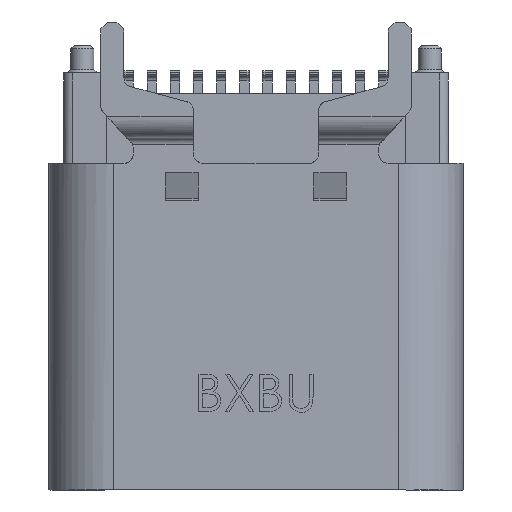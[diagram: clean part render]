
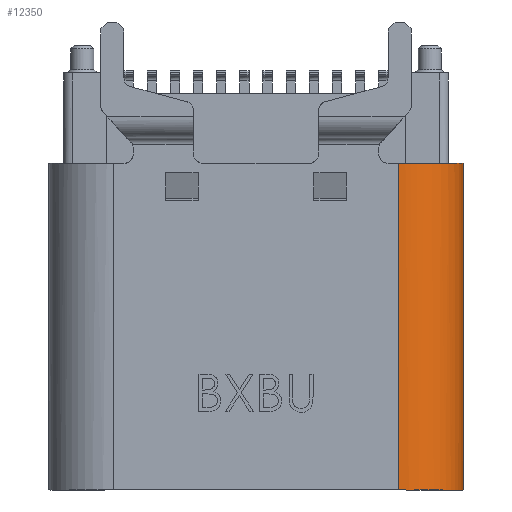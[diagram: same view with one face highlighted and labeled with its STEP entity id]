
A CAD part, front view. The second image highlights one B-rep face of the part: STEP entity #12350.
In plain terms, the highlighted cylindrical face has radius 1.4 mm (diameter 2.8 mm), a partial arc.
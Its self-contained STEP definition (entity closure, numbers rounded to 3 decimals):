
#734 = FACE_OUTER_BOUND ( 'NONE', #31170, .T. ) ;
#787 = VERTEX_POINT ( 'NONE', #1582 ) ;
#1535 = CARTESIAN_POINT ( 'NONE',  ( 3.225, -0.816, 0.093 ) ) ;
#1582 = CARTESIAN_POINT ( 'NONE',  ( 4.47, 0.575, -6.957 ) ) ;
#1964 = CARTESIAN_POINT ( 'NONE',  ( 4.47, 0.575, 0.093 ) ) ;
#2052 = B_SPLINE_CURVE_WITH_KNOTS ( 'NONE', 3,
 ( #10686, #8295, #7815, #30344, #18105, #29713, #15053, #2804, #22625, #22778 ),
 .UNSPECIFIED., .F., .F.,
 ( 4, 2, 2, 2, 4 ),
 ( 0., 0.25, 0.5, 0.75, 1. ),
 .UNSPECIFIED. ) ;
#2292 = CARTESIAN_POINT ( 'NONE',  ( 4.47, 0.575, 0.093 ) ) ;
#2730 = EDGE_CURVE ( 'NONE', #10450, #787, #24397, .T. ) ;
#2804 = CARTESIAN_POINT ( 'NONE',  ( 4.434, 0.209, -6.957 ) ) ;
#2941 = CARTESIAN_POINT ( 'NONE',  ( 4.15, -0.316, 0.093 ) ) ;
#3513 = ORIENTED_EDGE ( 'NONE', *, *, #4043, .T. ) ;
#3514 = CARTESIAN_POINT ( 'NONE',  ( 3.07, -0.825, 0.093 ) ) ;
#4043 = EDGE_CURVE ( 'NONE', #12006, #18644, #22339, .T. ) ;
#5031 = CARTESIAN_POINT ( 'NONE',  ( 4.47, 0.575, -6.957 ) ) ;
#6058 = CARTESIAN_POINT ( 'NONE',  ( 3.07, -0.825, 0.093 ) ) ;
#7815 = CARTESIAN_POINT ( 'NONE',  ( 3.436, -0.789, -6.957 ) ) ;
#8295 = CARTESIAN_POINT ( 'NONE',  ( 3.253, -0.825, -6.957 ) ) ;
#8397 = CARTESIAN_POINT ( 'NONE',  ( 4.15, -0.316, 0.093 ) ) ;
#8724 = CARTESIAN_POINT ( 'NONE',  ( 4.253, -0.191, 0.093 ) ) ;
#9410 = CARTESIAN_POINT ( 'NONE',  ( 4.47, 0.575, -4.607 ) ) ;
#9481 = AXIS2_PLACEMENT_3D ( 'NONE', #10561, #20395, #30221 ) ;
#9510 = B_SPLINE_CURVE_WITH_KNOTS ( 'NONE', 3,
 ( #8397, #8724, #13202, #28019, #28344, #25598 ),
 .UNSPECIFIED., .F., .F.,
 ( 4, 2, 4 ),
 ( 0., 0.5, 1. ),
 .UNSPECIFIED. ) ;
#9645 = EDGE_CURVE ( 'NONE', #19844, #10450, #9510, .T. ) ;
#10450 = VERTEX_POINT ( 'NONE', #1964 ) ;
#10561 = CARTESIAN_POINT ( 'NONE',  ( 3.07, 0.575, -7.607 ) ) ;
#10686 = CARTESIAN_POINT ( 'NONE',  ( 3.07, -0.825, -6.957 ) ) ;
#10917 = CARTESIAN_POINT ( 'NONE',  ( 4.15, -0.316, 0.093 ) ) ;
#12006 = VERTEX_POINT ( 'NONE', #3514 ) ;
#12350 = ADVANCED_FACE ( 'NONE', ( #734 ), #16210, .T. ) ;
#13202 = CARTESIAN_POINT ( 'NONE',  ( 4.333, -0.051, 0.093 ) ) ;
#15053 = CARTESIAN_POINT ( 'NONE',  ( 4.293, -0.13, -6.957 ) ) ;
#15550 = CARTESIAN_POINT ( 'NONE',  ( 3.173, -0.822, 0.093 ) ) ;
#16085 = CARTESIAN_POINT ( 'NONE',  ( 3.225, -0.816, 0.093 ) ) ;
#16210 = CYLINDRICAL_SURFACE ( 'NONE', #9481, 1.4 ) ;
#16517 = ORIENTED_EDGE ( 'NONE', *, *, #20983, .F. ) ;
#17006 = EDGE_CURVE ( 'NONE', #18644, #787, #2052, .T. ) ;
#17531 = ORIENTED_EDGE ( 'NONE', *, *, #21678, .T. ) ;
#18105 = CARTESIAN_POINT ( 'NONE',  ( 3.93, -0.545, -6.957 ) ) ;
#18413 = CARTESIAN_POINT ( 'NONE',  ( 3.07, -0.825, -2.257 ) ) ;
#18644 = VERTEX_POINT ( 'NONE', #22066 ) ;
#19692 = CARTESIAN_POINT ( 'NONE',  ( 4.47, 0.575, -2.257 ) ) ;
#19844 = VERTEX_POINT ( 'NONE', #2941 ) ;
#20395 = DIRECTION ( 'NONE',  ( 0., 0., -1. ) ) ;
#20922 = CARTESIAN_POINT ( 'NONE',  ( 3.894, -0.571, 0.093 ) ) ;
#20983 = EDGE_CURVE ( 'NONE', #12006, #30029, #26624, .T. ) ;
#21678 = EDGE_CURVE ( 'NONE', #19844, #30029, #28100, .T. ) ;
#21727 = ORIENTED_EDGE ( 'NONE', *, *, #17006, .T. ) ;
#22066 = CARTESIAN_POINT ( 'NONE',  ( 3.07, -0.825, -6.957 ) ) ;
#22339 = B_SPLINE_CURVE_WITH_KNOTS ( 'NONE', 3,
 ( #31114, #18413, #23542, #31268 ),
 .UNSPECIFIED., .F., .F.,
 ( 4, 4 ),
 ( 0., 1. ),
 .UNSPECIFIED. ) ;
#22625 = CARTESIAN_POINT ( 'NONE',  ( 4.47, 0.392, -6.957 ) ) ;
#22778 = CARTESIAN_POINT ( 'NONE',  ( 4.47, 0.575, -6.957 ) ) ;
#22916 = CARTESIAN_POINT ( 'NONE',  ( 3.225, -0.816, 0.093 ) ) ;
#23542 = CARTESIAN_POINT ( 'NONE',  ( 3.07, -0.825, -4.607 ) ) ;
#24152 = ORIENTED_EDGE ( 'NONE', *, *, #9645, .F. ) ;
#24397 = B_SPLINE_CURVE_WITH_KNOTS ( 'NONE', 3,
 ( #2292, #19692, #9410, #5031 ),
 .UNSPECIFIED., .F., .F.,
 ( 4, 4 ),
 ( 0., 1. ),
 .UNSPECIFIED. ) ;
#25574 = CARTESIAN_POINT ( 'NONE',  ( 3.578, -0.742, 0.093 ) ) ;
#25598 = CARTESIAN_POINT ( 'NONE',  ( 4.47, 0.575, 0.093 ) ) ;
#25693 = CARTESIAN_POINT ( 'NONE',  ( 3.122, -0.825, 0.093 ) ) ;
#26071 = CARTESIAN_POINT ( 'NONE',  ( 4.036, -0.454, 0.093 ) ) ;
#26624 = B_SPLINE_CURVE_WITH_KNOTS ( 'NONE', 3,
 ( #6058, #25693, #15550, #1535 ),
 .UNSPECIFIED., .F., .F.,
 ( 4, 4 ),
 ( 0., 1. ),
 .UNSPECIFIED. ) ;
#28019 = CARTESIAN_POINT ( 'NONE',  ( 4.443, 0.255, 0.093 ) ) ;
#28100 = B_SPLINE_CURVE_WITH_KNOTS ( 'NONE', 3,
 ( #10917, #26071, #20922, #25574, #28636, #16085 ),
 .UNSPECIFIED., .F., .F.,
 ( 4, 2, 4 ),
 ( 0., 0.5, 1. ),
 .UNSPECIFIED. ) ;
#28344 = CARTESIAN_POINT ( 'NONE',  ( 4.47, 0.412, 0.093 ) ) ;
#28636 = CARTESIAN_POINT ( 'NONE',  ( 3.404, -0.796, 0.093 ) ) ;
#29713 = CARTESIAN_POINT ( 'NONE',  ( 4.19, -0.285, -6.957 ) ) ;
#30029 = VERTEX_POINT ( 'NONE', #22916 ) ;
#30221 = DIRECTION ( 'NONE',  ( 1., 0., 0. ) ) ;
#30344 = CARTESIAN_POINT ( 'NONE',  ( 3.775, -0.648, -6.957 ) ) ;
#31114 = CARTESIAN_POINT ( 'NONE',  ( 3.07, -0.825, 0.093 ) ) ;
#31170 = EDGE_LOOP ( 'NONE', ( #3513, #21727, #31875, #24152, #17531, #16517 ) ) ;
#31268 = CARTESIAN_POINT ( 'NONE',  ( 3.07, -0.825, -6.957 ) ) ;
#31875 = ORIENTED_EDGE ( 'NONE', *, *, #2730, .F. ) ;
